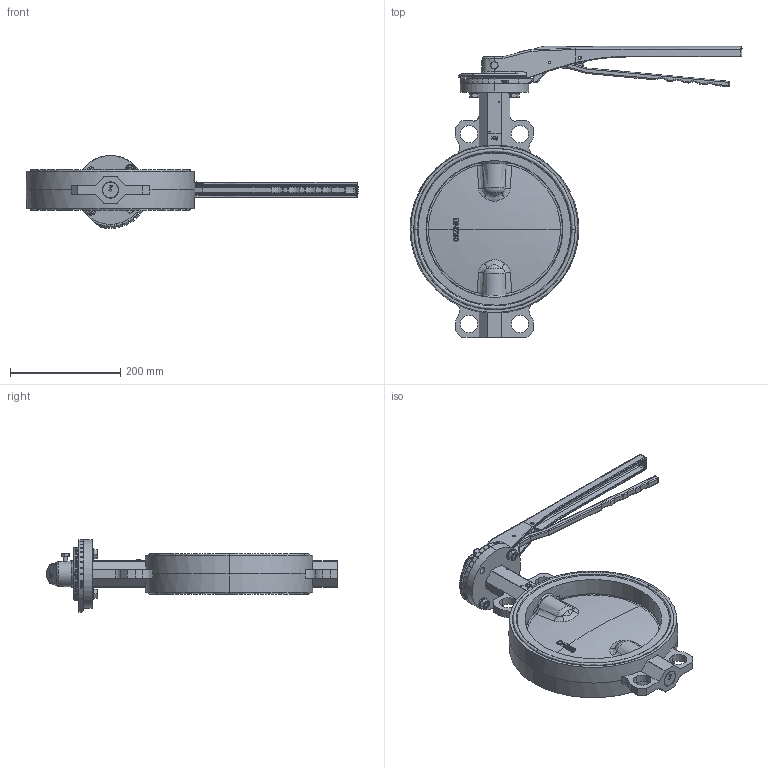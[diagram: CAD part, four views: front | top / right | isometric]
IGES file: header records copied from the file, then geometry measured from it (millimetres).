
Start section: SolidWorks IGES file using NURBS representation for surfaces
Global section: file name: H:\BE BIBLIOTHEQUE 3D\Projet_Biblio3D_2016\FSK\VPI\VPI-02\VPI-02 DN250.Igs; native system: SolidWorks 2014; preprocessor: SolidWorks 2014; author: a.cartier; date: 160929.145328; units: millimetre
Bounding box: 603.5 x 529.1 x 132.46 mm (x, y, z)
Volume: 3364835.4 mm3; surface area: 590220.8 mm2
Topology: 17 solids, 17 shells, 1642 faces, 4293 edges, 2614 vertices
Faces by surface type: bspline 1642
